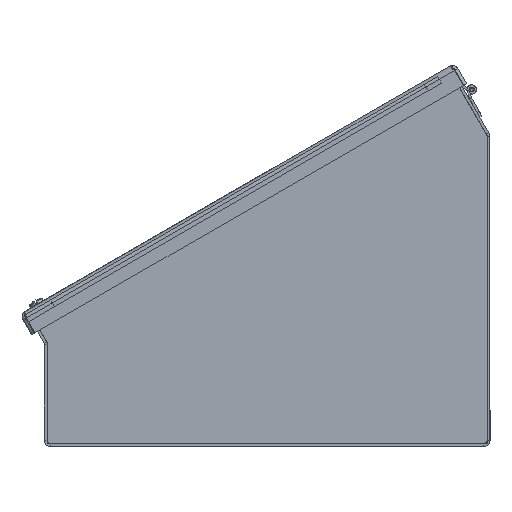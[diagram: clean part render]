
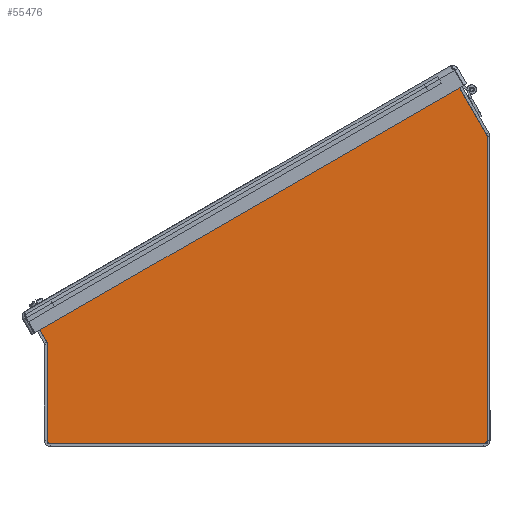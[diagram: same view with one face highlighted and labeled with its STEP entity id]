
A CAD part, left-side view. The second image highlights one B-rep face of the part: STEP entity #55476.
In plain terms, the highlighted planar face has unit normal (-1, 0, 0).
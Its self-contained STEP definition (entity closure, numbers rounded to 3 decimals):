
#8528 = LINE ( 'NONE', #12026, #8534 ) ;
#8534 = VECTOR ( 'NONE', #12029, 39.37 ) ;
#8541 = LINE ( 'NONE', #12068, #8542 ) ;
#8542 = VECTOR ( 'NONE', #12069, 39.37 ) ;
#8545 = LINE ( 'NONE', #12078, #8562 ) ;
#8548 = LINE ( 'NONE', #12070, #8549 ) ;
#8549 = VECTOR ( 'NONE', #12071, 39.37 ) ;
#8562 = VECTOR ( 'NONE', #12085, 39.37 ) ;
#8569 = LINE ( 'NONE', #12100, #8582 ) ;
#8571 = LINE ( 'NONE', #12104, #8584 ) ;
#8576 = LINE ( 'NONE', #12098, #8577 ) ;
#8577 = VECTOR ( 'NONE', #12099, 39.37 ) ;
#8579 = LINE ( 'NONE', #12106, #8586 ) ;
#8580 = LINE ( 'NONE', #12102, #8581 ) ;
#8581 = VECTOR ( 'NONE', #12103, 39.37 ) ;
#8582 = VECTOR ( 'NONE', #12105, 39.37 ) ;
#8583 = LINE ( 'NONE', #12108, #8588 ) ;
#8584 = VECTOR ( 'NONE', #12107, 39.37 ) ;
#8585 = LINE ( 'NONE', #12110, #8590 ) ;
#8586 = VECTOR ( 'NONE', #12109, 39.37 ) ;
#8588 = VECTOR ( 'NONE', #12112, 39.37 ) ;
#8590 = VECTOR ( 'NONE', #12114, 39.37 ) ;
#12026 = CARTESIAN_POINT ( 'NONE',  ( 0., 2.508, -6.203 ) ) ;
#12029 = DIRECTION ( 'NONE',  ( 0., -0.5, -0.866 ) ) ;
#12068 = CARTESIAN_POINT ( 'NONE',  ( 0., -6.628, -0.928 ) ) ;
#12069 = DIRECTION ( 'NONE',  ( 0., 0.5, 0.866 ) ) ;
#12070 = CARTESIAN_POINT ( 'NONE',  ( 0., 3.076, -6.531 ) ) ;
#12071 = DIRECTION ( 'NONE',  ( 0., 0.866, -0.5 ) ) ;
#12078 = CARTESIAN_POINT ( 'NONE',  ( 0., 3.076, -6.531 ) ) ;
#12085 = DIRECTION ( 'NONE',  ( 0., 0.866, -0.5 ) ) ;
#12098 = CARTESIAN_POINT ( 'NONE',  ( 0., 2.545, -6.139 ) ) ;
#12099 = DIRECTION ( 'NONE',  ( 0., -0.866, 0.5 ) ) ;
#12100 = CARTESIAN_POINT ( 'NONE',  ( 0., -6.85, 2.453 ) ) ;
#12102 = CARTESIAN_POINT ( 'NONE',  ( 0., -6.85, 0. ) ) ;
#12103 = DIRECTION ( 'NONE',  ( 0., 0., -1. ) ) ;
#12104 = CARTESIAN_POINT ( 'NONE',  ( 0., -7.194, -0.596 ) ) ;
#12105 = DIRECTION ( 'NONE',  ( 0., -1., 0. ) ) ;
#12106 = CARTESIAN_POINT ( 'NONE',  ( 0., -7.194, -0.596 ) ) ;
#12107 = DIRECTION ( 'NONE',  ( 0., 0., -1. ) ) ;
#12108 = CARTESIAN_POINT ( 'NONE',  ( 0., 3.915, -5.078 ) ) ;
#12109 = DIRECTION ( 'NONE',  ( 0., -0.5, -0.866 ) ) ;
#12110 = CARTESIAN_POINT ( 'NONE',  ( 0., 3.076, -6.531 ) ) ;
#12112 = DIRECTION ( 'NONE',  ( 0., 0., 1. ) ) ;
#12114 = DIRECTION ( 'NONE',  ( 0., 0.5, 0.866 ) ) ;
#20871 = FACE_OUTER_BOUND ( 'NONE', #44312, .T. ) ;
#25875 = VERTEX_POINT ( 'NONE', #41012 ) ;
#25888 = VERTEX_POINT ( 'NONE', #41023 ) ;
#25917 = VERTEX_POINT ( 'NONE', #41045 ) ;
#25957 = VERTEX_POINT ( 'NONE', #41080 ) ;
#25979 = VERTEX_POINT ( 'NONE', #41100 ) ;
#26033 = VERTEX_POINT ( 'NONE', #41143 ) ;
#26109 = VERTEX_POINT ( 'NONE', #41201 ) ;
#26148 = VERTEX_POINT ( 'NONE', #41234 ) ;
#36562 = ORIENTED_EDGE ( 'NONE', *, *, #48705, .F. ) ;
#36563 = ORIENTED_EDGE ( 'NONE', *, *, #48729, .T. ) ;
#36564 = ORIENTED_EDGE ( 'NONE', *, *, #48714, .F. ) ;
#36565 = ORIENTED_EDGE ( 'NONE', *, *, #48722, .F. ) ;
#36566 = ORIENTED_EDGE ( 'NONE', *, *, #48733, .F. ) ;
#36567 = ORIENTED_EDGE ( 'NONE', *, *, #48734, .F. ) ;
#36568 = ORIENTED_EDGE ( 'NONE', *, *, #48731, .F. ) ;
#36569 = ORIENTED_EDGE ( 'NONE', *, *, #48732, .F. ) ;
#36570 = ORIENTED_EDGE ( 'NONE', *, *, #48735, .F. ) ;
#36571 = ORIENTED_EDGE ( 'NONE', *, *, #48736, .F. ) ;
#36572 = ORIENTED_EDGE ( 'NONE', *, *, #48715, .F. ) ;
#41012 = CARTESIAN_POINT ( 'NONE',  ( 0., 2.508, -6.203 ) ) ;
#41023 = CARTESIAN_POINT ( 'NONE',  ( 0., -6.85, 0. ) ) ;
#41045 = CARTESIAN_POINT ( 'NONE',  ( 0., -6.591, -0.864 ) ) ;
#41080 = CARTESIAN_POINT ( 'NONE',  ( 0., -7.194, -0.596 ) ) ;
#41100 = CARTESIAN_POINT ( 'NONE',  ( 0., 3.076, -6.531 ) ) ;
#41143 = CARTESIAN_POINT ( 'NONE',  ( 0., 2.545, -6.139 ) ) ;
#41201 = CARTESIAN_POINT ( 'NONE',  ( 0., -6.628, -0.928 ) ) ;
#41234 = CARTESIAN_POINT ( 'NONE',  ( 0., -7.194, -0.602 ) ) ;
#43146 = AXIS2_PLACEMENT_3D ( 'NONE', #59000, #59010, #59011 ) ;
#43535 = VERTEX_POINT ( 'NONE', #64615 ) ;
#43606 = VERTEX_POINT ( 'NONE', #64682 ) ;
#43763 = VERTEX_POINT ( 'NONE', #64830 ) ;
#44312 = EDGE_LOOP ( 'NONE', ( #36562, #36563, #36564, #36565, #36566, #36567, #36568, #36569, #36570, #36571, #36572 ) ) ;
#48705 = EDGE_CURVE ( 'NONE', #26033, #25875, #8528, .T. ) ;
#48714 = EDGE_CURVE ( 'NONE', #26109, #25917, #8541, .T. ) ;
#48715 = EDGE_CURVE ( 'NONE', #25875, #25979, #8548, .T. ) ;
#48722 = EDGE_CURVE ( 'NONE', #26148, #26109, #8545, .T. ) ;
#48729 = EDGE_CURVE ( 'NONE', #26033, #25917, #8576, .T. ) ;
#48731 = EDGE_CURVE ( 'NONE', #43606, #25888, #8580, .T. ) ;
#48732 = EDGE_CURVE ( 'NONE', #43763, #43606, #8569, .T. ) ;
#48733 = EDGE_CURVE ( 'NONE', #25957, #26148, #8571, .T. ) ;
#48734 = EDGE_CURVE ( 'NONE', #25888, #25957, #8579, .T. ) ;
#48735 = EDGE_CURVE ( 'NONE', #43535, #43763, #8583, .T. ) ;
#48736 = EDGE_CURVE ( 'NONE', #25979, #43535, #8585, .T. ) ;
#55476 = ADVANCED_FACE ( 'NONE', ( #20871 ), #59005, .F. ) ;
#59000 = CARTESIAN_POINT ( 'NONE',  ( 0., -7.196, -0.6 ) ) ;
#59005 = PLANE ( 'NONE',  #43146 ) ;
#59010 = DIRECTION ( 'NONE',  ( 1., 0., 0. ) ) ;
#59011 = DIRECTION ( 'NONE',  ( 0., 0., -1. ) ) ;
#64615 = CARTESIAN_POINT ( 'NONE',  ( 0., 3.915, -5.078 ) ) ;
#64682 = CARTESIAN_POINT ( 'NONE',  ( 0., -6.85, 2.453 ) ) ;
#64830 = CARTESIAN_POINT ( 'NONE',  ( 0., 3.915, 2.453 ) ) ;
